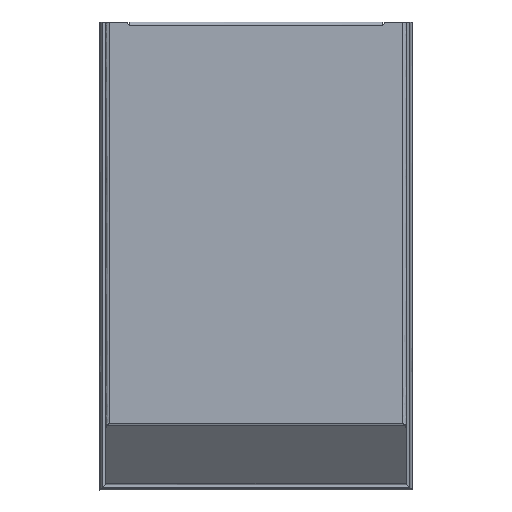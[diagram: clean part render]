
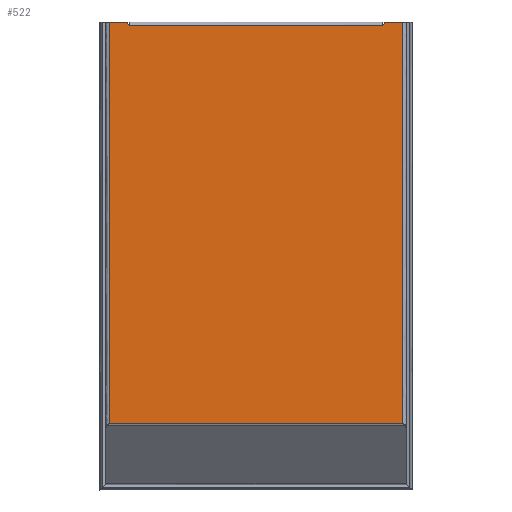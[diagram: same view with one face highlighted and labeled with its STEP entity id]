
A CAD part, front view. The second image highlights one B-rep face of the part: STEP entity #522.
In plain terms, the highlighted planar face has unit normal (0, -1, 0).
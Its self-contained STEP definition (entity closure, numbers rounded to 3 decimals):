
#522=ADVANCED_FACE('',(#1057),#8281,.T.);
#1057=FACE_OUTER_BOUND('',#1620,.T.);
#1620=EDGE_LOOP('',(#3987,#3988,#3989,#3990,#3991,#3992,#3993,#3994));
#3987=ORIENTED_EDGE('',*,*,#5605,.T.);
#3988=ORIENTED_EDGE('',*,*,#5612,.T.);
#3989=ORIENTED_EDGE('',*,*,#5606,.T.);
#3990=ORIENTED_EDGE('',*,*,#5607,.T.);
#3991=ORIENTED_EDGE('',*,*,#5608,.T.);
#3992=ORIENTED_EDGE('',*,*,#5609,.T.);
#3993=ORIENTED_EDGE('',*,*,#5610,.T.);
#3994=ORIENTED_EDGE('',*,*,#5619,.T.);
#5605=EDGE_CURVE('',#7979,#7980,#6633,.T.);
#5606=EDGE_CURVE('',#7981,#7982,#6634,.T.);
#5607=EDGE_CURVE('',#7982,#7983,#6635,.T.);
#5608=EDGE_CURVE('',#7983,#7984,#6636,.T.);
#5609=EDGE_CURVE('',#7984,#7985,#6637,.T.);
#5610=EDGE_CURVE('',#7985,#7986,#6638,.T.);
#5612=EDGE_CURVE('',#7980,#7981,#6640,.T.);
#5619=EDGE_CURVE('',#7986,#7979,#6645,.T.);
#6633=B_SPLINE_CURVE_WITH_KNOTS('',1,(#19761,#19762),.UNSPECIFIED.,.F.,.F.,
(2,2),(0.,126.),.UNSPECIFIED.);
#6634=B_SPLINE_CURVE_WITH_KNOTS('',1,(#19763,#19764),.UNSPECIFIED.,.F.,.F.,
(2,2),(0.,8.961),.UNSPECIFIED.);
#6635=B_SPLINE_CURVE_WITH_KNOTS('',1,(#19765,#19766),.UNSPECIFIED.,.F.,.F.,
(2,2),(0.,199.551),.UNSPECIFIED.);
#6636=B_SPLINE_CURVE_WITH_KNOTS('',1,(#19767,#19768),.UNSPECIFIED.,.F.,.F.,
(2,2),(0.,146.),.UNSPECIFIED.);
#6637=B_SPLINE_CURVE_WITH_KNOTS('',1,(#19769,#19770),.UNSPECIFIED.,.F.,.F.,
(2,2),(0.,199.551),.UNSPECIFIED.);
#6638=B_SPLINE_CURVE_WITH_KNOTS('',1,(#19771,#19772),.UNSPECIFIED.,.F.,.F.,
(2,2),(0.,8.961),.UNSPECIFIED.);
#6640=B_SPLINE_CURVE_WITH_KNOTS('',1,(#19775,#19776),.UNSPECIFIED.,.F.,.F.,
(2,2),(0.,2.078),.UNSPECIFIED.);
#6645=B_SPLINE_CURVE_WITH_KNOTS('',1,(#19791,#19792),.UNSPECIFIED.,.F.,.F.,
(2,2),(0.,2.078),.UNSPECIFIED.);
#7979=VERTEX_POINT('',#19624);
#7980=VERTEX_POINT('',#19625);
#7981=VERTEX_POINT('',#19626);
#7982=VERTEX_POINT('',#19627);
#7983=VERTEX_POINT('',#19628);
#7984=VERTEX_POINT('',#19629);
#7985=VERTEX_POINT('',#19630);
#7986=VERTEX_POINT('',#19631);
#8281=PLANE('',#8892);
#8892=AXIS2_PLACEMENT_3D('',#18942,#9103,$);
#9103=DIRECTION('',(0.,-1.,0.));
#18942=CARTESIAN_POINT('',(-87.601,-40.,19.956));
#19624=CARTESIAN_POINT('',(63.,-40.,-1.8));
#19625=CARTESIAN_POINT('',(-63.,-40.,-1.8));
#19626=CARTESIAN_POINT('',(-64.039,-40.,0.));
#19627=CARTESIAN_POINT('',(-73.,-40.,0.));
#19628=CARTESIAN_POINT('',(-73.,-40.,-199.551));
#19629=CARTESIAN_POINT('',(73.,-40.,-199.551));
#19630=CARTESIAN_POINT('',(73.,-40.,0.));
#19631=CARTESIAN_POINT('',(64.039,-40.,0.));
#19761=CARTESIAN_POINT('',(63.,-40.,-1.8));
#19762=CARTESIAN_POINT('',(-63.,-40.,-1.8));
#19763=CARTESIAN_POINT('',(-64.039,-40.,0.));
#19764=CARTESIAN_POINT('',(-73.,-40.,0.));
#19765=CARTESIAN_POINT('',(-73.,-40.,0.));
#19766=CARTESIAN_POINT('',(-73.,-40.,-199.551));
#19767=CARTESIAN_POINT('',(-73.,-40.,-199.551));
#19768=CARTESIAN_POINT('',(73.,-40.,-199.551));
#19769=CARTESIAN_POINT('',(73.,-40.,-199.551));
#19770=CARTESIAN_POINT('',(73.,-40.,0.));
#19771=CARTESIAN_POINT('',(73.,-40.,0.));
#19772=CARTESIAN_POINT('',(64.039,-40.,0.));
#19775=CARTESIAN_POINT('',(-63.,-40.,-1.8));
#19776=CARTESIAN_POINT('',(-64.039,-40.,0.));
#19791=CARTESIAN_POINT('',(64.039,-40.,0.));
#19792=CARTESIAN_POINT('',(63.,-40.,-1.8));
